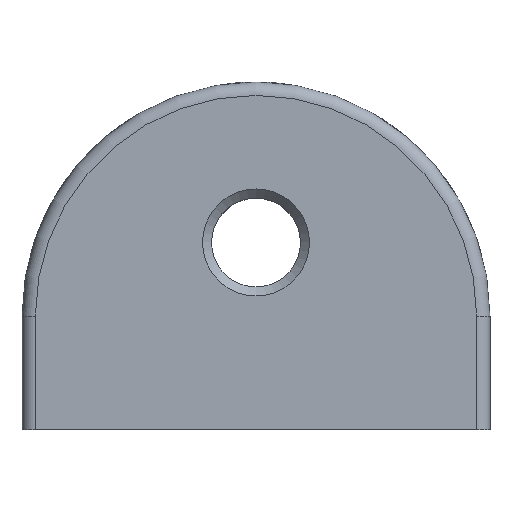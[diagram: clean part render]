
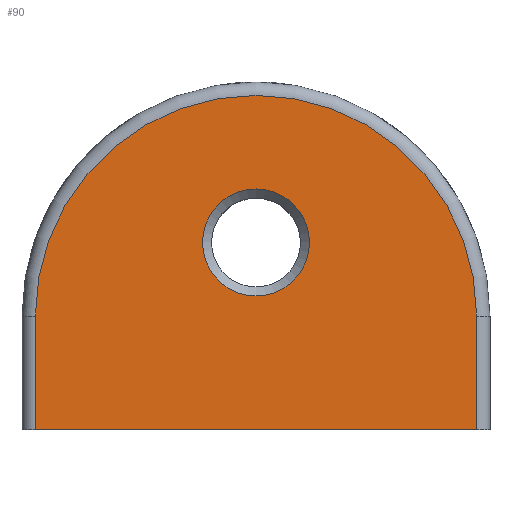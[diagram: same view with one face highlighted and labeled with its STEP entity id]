
A CAD part, top view. The second image highlights one B-rep face of the part: STEP entity #90.
In plain terms, the highlighted planar face has unit normal (0, 0, 1).
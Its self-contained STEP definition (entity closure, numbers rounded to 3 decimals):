
#90 = ADVANCED_FACE( '', ( #163, #164 ), #165, .F. );
#163 = FACE_BOUND( '', #289, .T. );
#164 = FACE_OUTER_BOUND( '', #290, .T. );
#165 = PLANE( '', #291 );
#289 = EDGE_LOOP( '', ( #479 ) );
#290 = EDGE_LOOP( '', ( #480, #481, #482, #483 ) );
#291 = AXIS2_PLACEMENT_3D( '', #484, #485, #486 );
#479 = ORIENTED_EDGE( '', *, *, #731, .T. );
#480 = ORIENTED_EDGE( '', *, *, #765, .F. );
#481 = ORIENTED_EDGE( '', *, *, #738, .F. );
#482 = ORIENTED_EDGE( '', *, *, #766, .T. );
#483 = ORIENTED_EDGE( '', *, *, #767, .T. );
#484 = CARTESIAN_POINT( '', ( -16.5, 8.5, 6. ) );
#485 = DIRECTION( '', ( 0., 0., -1. ) );
#486 = DIRECTION( '', ( -1., 0., 0. ) );
#731 = EDGE_CURVE( '', #835, #835, #836, .T. );
#738 = EDGE_CURVE( '', #848, #850, #851, .T. );
#765 = EDGE_CURVE( '', #850, #897, #898, .T. );
#766 = EDGE_CURVE( '', #848, #899, #900, .T. );
#767 = EDGE_CURVE( '', #899, #897, #901, .T. );
#835 = VERTEX_POINT( '', #1115 );
#836 = CIRCLE( '', #1116, 4. );
#848 = VERTEX_POINT( '', #1128 );
#850 = VERTEX_POINT( '', #1130 );
#851 = CIRCLE( '', #1131, 16.5 );
#897 = VERTEX_POINT( '', #1227 );
#898 = LINE( '', #1228, #1229 );
#899 = VERTEX_POINT( '', #1230 );
#900 = LINE( '', #1231, #1232 );
#901 = LINE( '', #1233, #1234 );
#1115 = CARTESIAN_POINT( '', ( -4., 14., 6. ) );
#1116 = AXIS2_PLACEMENT_3D( '', #1410, #1411, #1412 );
#1128 = CARTESIAN_POINT( '', ( -16.5, 8.5, 6. ) );
#1130 = CARTESIAN_POINT( '', ( 16.5, 8.5, 6. ) );
#1131 = AXIS2_PLACEMENT_3D( '', #1431, #1432, #1433 );
#1227 = CARTESIAN_POINT( '', ( 16.5, 0., 6. ) );
#1228 = CARTESIAN_POINT( '', ( 16.5, 8.5, 6. ) );
#1229 = VECTOR( '', #1481, 1000. );
#1230 = CARTESIAN_POINT( '', ( -16.5, 0., 6. ) );
#1231 = CARTESIAN_POINT( '', ( -16.5, 8.5, 6. ) );
#1232 = VECTOR( '', #1482, 1000. );
#1233 = CARTESIAN_POINT( '', ( -16.5, 0., 6. ) );
#1234 = VECTOR( '', #1483, 1000. );
#1410 = CARTESIAN_POINT( '', ( 0., 14., 6. ) );
#1411 = DIRECTION( '', ( 0., 0., -1. ) );
#1412 = DIRECTION( '', ( -1., 0., 0. ) );
#1431 = CARTESIAN_POINT( '', ( 0., 8.5, 6. ) );
#1432 = DIRECTION( '', ( 0., 0., -1. ) );
#1433 = DIRECTION( '', ( -1., 0., 0. ) );
#1481 = DIRECTION( '', ( 0., -1., 0. ) );
#1482 = DIRECTION( '', ( 0., -1., 0. ) );
#1483 = DIRECTION( '', ( 1., 0., 0. ) );
